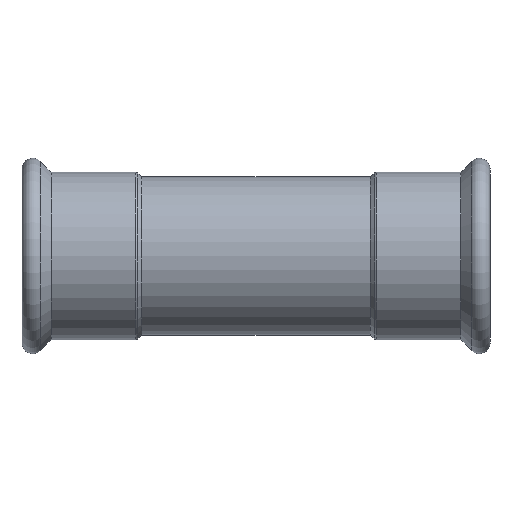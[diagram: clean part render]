
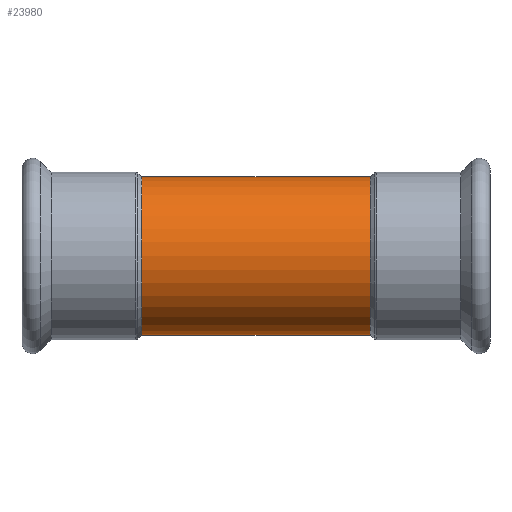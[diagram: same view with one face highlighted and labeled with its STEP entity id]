
A CAD part, top view. The second image highlights one B-rep face of the part: STEP entity #23980.
In plain terms, the highlighted cylindrical face has radius 44.45 mm (diameter 88.9 mm), a partial arc.
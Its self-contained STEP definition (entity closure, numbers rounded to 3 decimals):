
#4530=CARTESIAN_POINT('',(-224.511,139.522,
0.));
#4540=DIRECTION('',(1.,0.,0.));
#4550=DIRECTION('',(0.,0.,1.));
#4560=AXIS2_PLACEMENT_3D('',#4530,#4540,#4550);
#4570=CYLINDRICAL_SURFACE('',#4560,44.45);
#8410=CARTESIAN_POINT('',(-224.511,139.522,-44.45));
#8420=DIRECTION('',(1.,0.,0.));
#8430=VECTOR('',#8420,1.);
#8440=LINE('',#8410,#8430);
#8450=CARTESIAN_POINT('',(-352.511,139.522,-44.45));
#8460=VERTEX_POINT('',#8450);
#8470=CARTESIAN_POINT('',(-224.511,139.522,-44.45));
#8480=VERTEX_POINT('',#8470);
#8490=EDGE_CURVE('',#8460,#8480,#8440,.T.);
#8510=CARTESIAN_POINT('',(-224.511,139.522,
0.));
#8520=DIRECTION('',(1.,0.,0.));
#8530=DIRECTION('',(0.,0.,-1.));
#8540=AXIS2_PLACEMENT_3D('',#8510,#8520,#8530);
#8550=CIRCLE('',#8540,44.45);
#8560=CARTESIAN_POINT('',(-224.511,139.522,44.45));
#8570=VERTEX_POINT('',#8560);
#8600=CARTESIAN_POINT('',(-224.511,139.522,44.45));
#8610=DIRECTION('',(1.,0.,0.));
#8620=VECTOR('',#8610,1.);
#8630=LINE('',#8600,#8620);
#8640=CARTESIAN_POINT('',(-352.511,139.522,44.45));
#8650=VERTEX_POINT('',#8640);
#8660=EDGE_CURVE('',#8650,#8570,#8630,.T.);
#8680=CARTESIAN_POINT('',(-352.511,139.522,
0.));
#8690=DIRECTION('',(1.,0.,0.));
#8700=DIRECTION('',(0.,0.,1.));
#8710=AXIS2_PLACEMENT_3D('',#8680,#8690,#8700);
#8720=CIRCLE('',#8710,44.45);
#23290=EDGE_CURVE('',#8650,#8460,#8720,.T.);
#23910=EDGE_CURVE('',#8570,#8480,#8550,.T.);
#23920=ORIENTED_EDGE('',*,*,#23910,.F.);
#23930=ORIENTED_EDGE('',*,*,#8490,.T.);
#23940=ORIENTED_EDGE('',*,*,#23290,.T.);
#23950=ORIENTED_EDGE('',*,*,#8660,.F.);
#23960=EDGE_LOOP('',(#23950,#23940,#23930,#23920));
#23970=FACE_OUTER_BOUND('',#23960,.T.);
#23980=ADVANCED_FACE('',(#23970),#4570,.T.);
